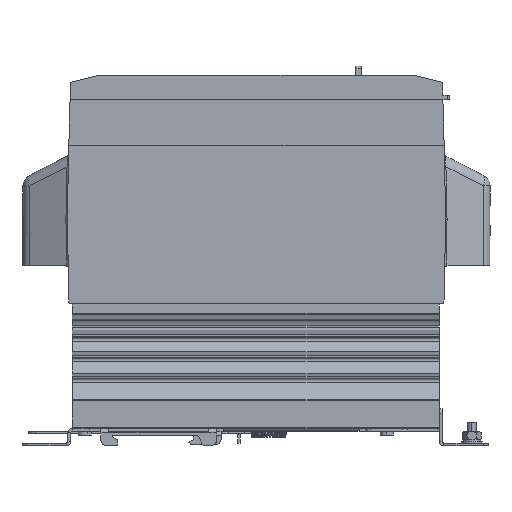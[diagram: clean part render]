
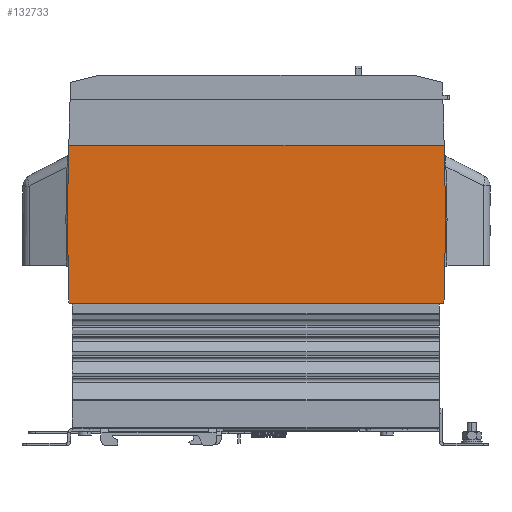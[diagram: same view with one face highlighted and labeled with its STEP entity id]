
A CAD part, left-side view. The second image highlights one B-rep face of the part: STEP entity #132733.
In plain terms, the highlighted planar face has unit normal (-1, 0, 0).
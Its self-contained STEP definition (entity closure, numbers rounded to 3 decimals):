
#223 = VERTEX_POINT ( 'NONE', #172276 ) ;
#1575 = CARTESIAN_POINT ( 'NONE',  ( 0., 163., 0. ) ) ;
#6290 = DIRECTION ( 'NONE',  ( 0., 0.021, -1. ) ) ;
#16267 = CARTESIAN_POINT ( 'NONE',  ( 0., 162.246, -36. ) ) ;
#16513 = ORIENTED_EDGE ( 'NONE', *, *, #226029, .T. ) ;
#22662 = VERTEX_POINT ( 'NONE', #16267 ) ;
#34343 = ORIENTED_EDGE ( 'NONE', *, *, #120992, .F. ) ;
#43865 = EDGE_LOOP ( 'NONE', ( #16513, #183961, #114780, #179733, #44601, #34343 ) ) ;
#44601 = ORIENTED_EDGE ( 'NONE', *, *, #177027, .F. ) ;
#46803 = CARTESIAN_POINT ( 'NONE',  ( 0., 163., 0. ) ) ;
#47069 = PLANE ( 'NONE',  #180400 ) ;
#48799 = VERTEX_POINT ( 'NONE', #150600 ) ;
#48842 = VECTOR ( 'NONE', #84750, 1000. ) ;
#54010 = EDGE_CURVE ( 'NONE', #22662, #92775, #183260, .T. ) ;
#68681 = LINE ( 'NONE', #116472, #221073 ) ;
#76145 = VECTOR ( 'NONE', #177229, 1000. ) ;
#80220 = CARTESIAN_POINT ( 'NONE',  ( 0., 163., 32. ) ) ;
#81480 = CARTESIAN_POINT ( 'NONE',  ( 0., 162.33, 32. ) ) ;
#84750 = DIRECTION ( 'NONE',  ( 0., -1., 0. ) ) ;
#87340 = VERTEX_POINT ( 'NONE', #160750 ) ;
#92775 = VERTEX_POINT ( 'NONE', #46803 ) ;
#92985 = DIRECTION ( 'NONE',  ( 0., -0.021, -1. ) ) ;
#97870 = LINE ( 'NONE', #174693, #48842 ) ;
#98562 = EDGE_CURVE ( 'NONE', #48799, #223, #211261, .T. ) ;
#98696 = DIRECTION ( 'NONE',  ( 1., 0., 0. ) ) ;
#100326 = DIRECTION ( 'NONE',  ( 0., -1., 0. ) ) ;
#111014 = FACE_OUTER_BOUND ( 'NONE', #43865, .T. ) ;
#114780 = ORIENTED_EDGE ( 'NONE', *, *, #121159, .T. ) ;
#116472 = CARTESIAN_POINT ( 'NONE',  ( 0., 0., -36. ) ) ;
#120992 = EDGE_CURVE ( 'NONE', #165688, #87340, #97870, .T. ) ;
#121159 = EDGE_CURVE ( 'NONE', #22662, #48799, #68681, .T. ) ;
#129521 = DIRECTION ( 'NONE',  ( 0., 0.021, 1. ) ) ;
#132733 = ADVANCED_FACE ( 'NONE', ( #111014 ), #47069, .F. ) ;
#150600 = CARTESIAN_POINT ( 'NONE',  ( 0., 0.754, -36. ) ) ;
#154194 = CARTESIAN_POINT ( 'NONE',  ( 0., 162.33, 31.986 ) ) ;
#157227 = CARTESIAN_POINT ( 'NONE',  ( 0., 0.754, -35.984 ) ) ;
#160750 = CARTESIAN_POINT ( 'NONE',  ( 0., 0.67, 32. ) ) ;
#162197 = LINE ( 'NONE', #154194, #167916 ) ;
#165688 = VERTEX_POINT ( 'NONE', #81480 ) ;
#167916 = VECTOR ( 'NONE', #6290, 1000. ) ;
#172276 = CARTESIAN_POINT ( 'NONE',  ( 0., 0., 0. ) ) ;
#174693 = CARTESIAN_POINT ( 'NONE',  ( 0., 163., 32. ) ) ;
#177027 = EDGE_CURVE ( 'NONE', #87340, #223, #228428, .T. ) ;
#177229 = DIRECTION ( 'NONE',  ( 0., -0.021, 1. ) ) ;
#179733 = ORIENTED_EDGE ( 'NONE', *, *, #98562, .T. ) ;
#180400 = AXIS2_PLACEMENT_3D ( 'NONE', #80220, #98696, #227175 ) ;
#183260 = LINE ( 'NONE', #1575, #212147 ) ;
#183961 = ORIENTED_EDGE ( 'NONE', *, *, #54010, .F. ) ;
#208436 = VECTOR ( 'NONE', #92985, 1000. ) ;
#211261 = LINE ( 'NONE', #157227, #76145 ) ;
#212147 = VECTOR ( 'NONE', #129521, 1000. ) ;
#218343 = CARTESIAN_POINT ( 'NONE',  ( 0., 0., 0. ) ) ;
#221073 = VECTOR ( 'NONE', #100326, 1000. ) ;
#226029 = EDGE_CURVE ( 'NONE', #165688, #92775, #162197, .T. ) ;
#227175 = DIRECTION ( 'NONE',  ( 0., 0., -1. ) ) ;
#228428 = LINE ( 'NONE', #218343, #208436 ) ;
